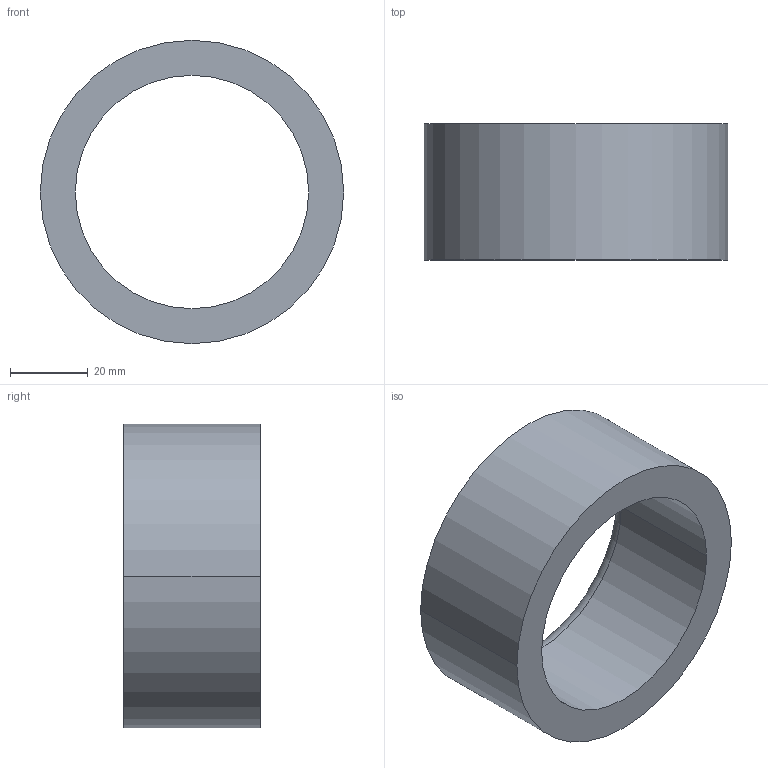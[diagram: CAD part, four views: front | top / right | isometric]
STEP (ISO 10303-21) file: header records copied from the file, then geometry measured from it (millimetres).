
FILE_DESCRIPTION (( 'STEP AP203' ), '1' );
FILE_NAME ('30800.WPP78M60.0.step', '2019-01-23T23:03:53', ( '' ), ( '' ), 'SwSTEP 2.0', 'SolidWorks 2017', '' );
FILE_SCHEMA (( 'CONFIG_CONTROL_DESIGN' ));
Length unit declared in the file: millimetre
Products named in the file (1): 30800.WPP78M60.0
Bounding box: 78 x 35 x 78 mm (x, y, z)
Volume: 67616 mm3; surface area: 18759.3 mm2
Topology: 1 solids, 1 shells, 8 faces, 16 edges, 10 vertices
Faces by surface type: cylinder 4, torus 2, plane 2
Entity records: 297 total; most frequent: DIRECTION 46, CARTESIAN_POINT 35, ORIENTED_EDGE 32, AXIS2_PLACEMENT_3D 21, EDGE_CURVE 16, CIRCLE 12, VERTEX_POINT 10, EDGE_LOOP 10
